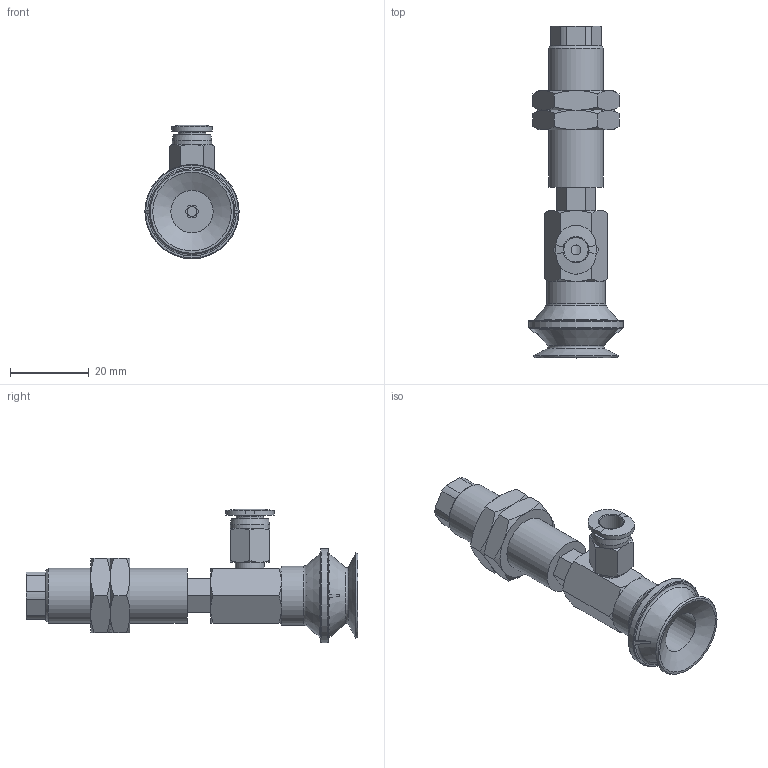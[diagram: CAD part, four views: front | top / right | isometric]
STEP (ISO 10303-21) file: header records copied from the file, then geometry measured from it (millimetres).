
FILE_DESCRIPTION(('STEP AP203'),'1');
FILE_NAME('-O.stp','2025-04-02T01:53:30',(' '),(' '),'Spatial InterOp 3D',' ',' ');
FILE_SCHEMA(('CONFIG_CONTROL_DESIGN'));
Length unit declared in the file: millimetre
Products named in the file (8): BNABPBYH-20-6-※-O; Adapter20-T-NAPB; CONNECTOR-20-6-PB; Nut-20-S-PB; NAPBTH-20-6-FBODY; NAPBTH-20-6-MBODY; BPBG-20-※; PC-C_06-M5
Assembly tree (8 placements, depth 2):
  BNABPBYH-20-6-※-O
    Adapter20-T-NAPB
    CONNECTOR-20-6-PB
    Nut-20-S-PB  x2
    NAPBTH-20-6-FBODY
    NAPBTH-20-6-MBODY
    BPBG-20-※
    PC-C_06-M5
Bounding box: 24 x 84.5 x 33.98 mm (x, y, z)
Volume: 14320.4 mm3; surface area: 12155.7 mm2
Topology: 7 solids, 10 shells, 216 faces, 472 edges, 290 vertices
Faces by surface type: plane 96, cone 72, cylinder 30, torus 11, bspline 4, revolution 3
Full cylindrical faces by diameter (mm): 2.5 x1, 3 x1, 4 x2, 4.134 x3, 4.6 x1, 5 x3, 7 x1, 7.4 x1, 8.2 x1, 10 x1, 10.8 x1, 11 x1, 12.917 x2, 14 x1, 15 x1, 24 x1
Entity records: 5832 total; most frequent: CARTESIAN_POINT 1531, DIRECTION 813, ORIENTED_EDGE 722, EDGE_CURVE 363, AXIS2_PLACEMENT_3D 335, EDGE_LOOP 272, VERTEX_POINT 251, FACE_OUTER_BOUND 163
